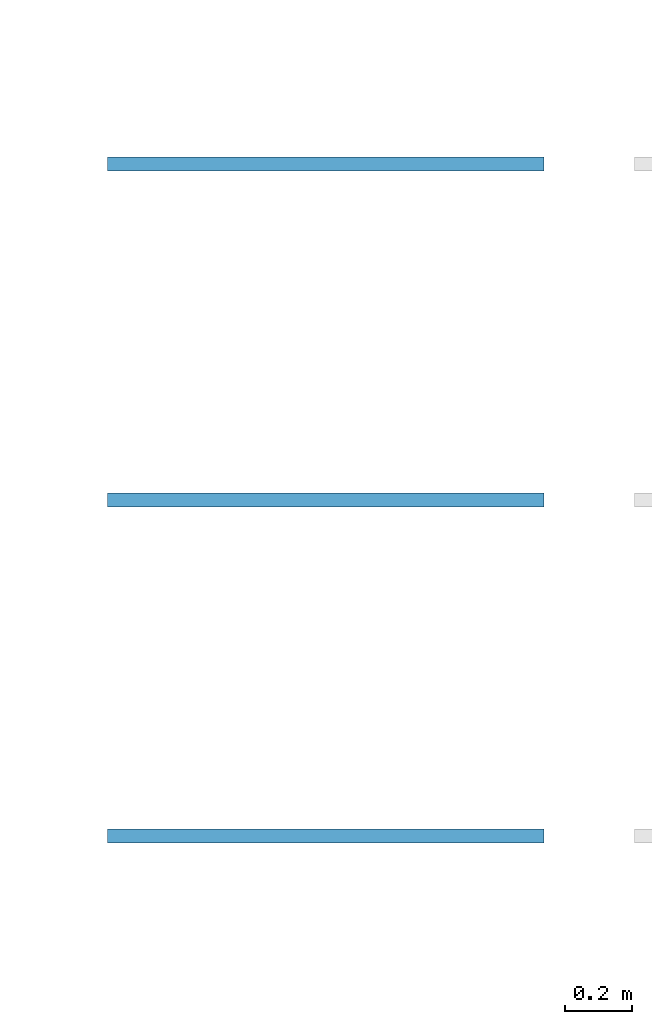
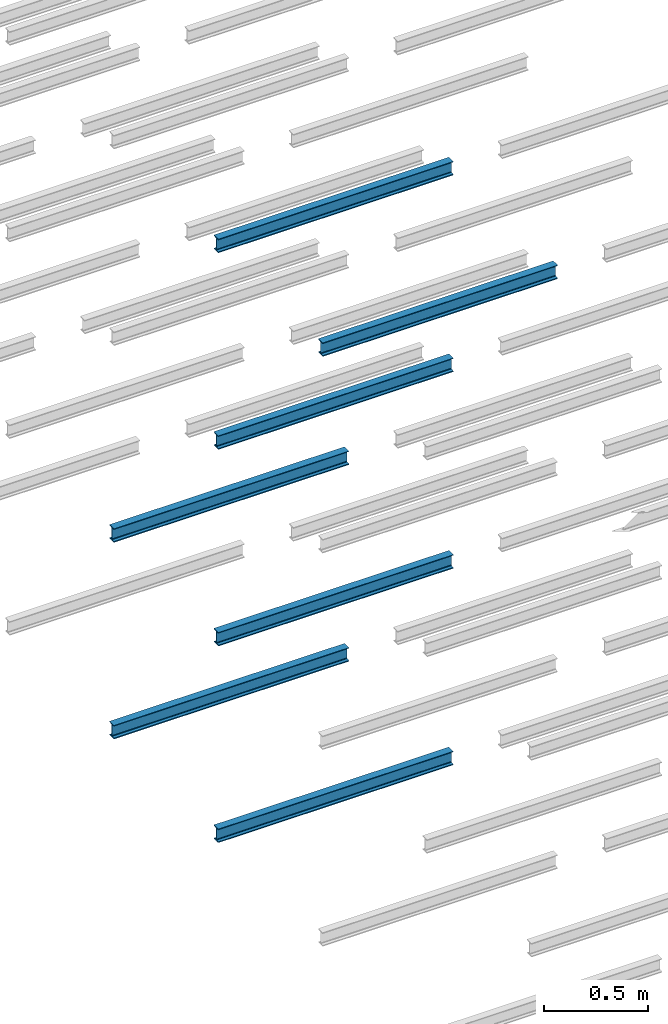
# One storey, part 37 of 290: 7 beams.
"""IFC2X3 building model written with IfcOpenShell, lengths in metres."""

from ifc_helpers import new_model, entity, si_unit, converted_unit, derived_unit, direction, frame, frame_2d, origin, place, context, subcontext, project, spatial, polyline, circle_curve, parameter, trimmed, segment, composite_curve, outline, extrude, material, type_object, element, save


model = new_model("IFC2X3")

# Units and contexts
model_context = context("Model", 3, precision=1e-05, world=origin(), true_north=direction((6.12303176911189e-17, 1.0)))
body_context = subcontext(model_context, "Body", "Model", "MODEL_VIEW")
ifc_project = project(units=[si_unit("LENGTHUNIT", "METRE"), si_unit("AREAUNIT", "SQUARE_METRE"), si_unit("VOLUMEUNIT", "CUBIC_METRE"), converted_unit("PLANEANGLEUNIT", "DEGREE", entity("IfcRatioMeasure", 0.0174532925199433), si_unit("PLANEANGLEUNIT", "RADIAN"), dimensions=[0, 0, 0, 0, 0, 0, 0]), si_unit("MASSUNIT", "GRAM", prefix="KILO"), derived_unit("MASSDENSITYUNIT", [(si_unit("MASSUNIT", "GRAM", prefix="KILO"), 1), (si_unit("LENGTHUNIT", "METRE"), -3)]), derived_unit("MOMENTOFINERTIAUNIT", [(si_unit("LENGTHUNIT", "METRE"), 4)]), si_unit("TIMEUNIT", "SECOND"), si_unit("FREQUENCYUNIT", "HERTZ"), si_unit("THERMODYNAMICTEMPERATUREUNIT", "DEGREE_CELSIUS"), derived_unit("THERMALTRANSMITTANCEUNIT", [(si_unit("MASSUNIT", "GRAM", prefix="KILO"), 1), (si_unit("THERMODYNAMICTEMPERATUREUNIT", "KELVIN"), -1), (si_unit("TIMEUNIT", "SECOND"), -3)]), derived_unit("VOLUMETRICFLOWRATEUNIT", [(si_unit("LENGTHUNIT", "METRE"), 3), (si_unit("TIMEUNIT", "SECOND"), -1)]), si_unit("ELECTRICCURRENTUNIT", "AMPERE"), si_unit("ELECTRICVOLTAGEUNIT", "VOLT"), si_unit("POWERUNIT", "WATT"), si_unit("FORCEUNIT", "NEWTON", prefix="KILO"), si_unit("ILLUMINANCEUNIT", "LUX"), si_unit("LUMINOUSFLUXUNIT", "LUMEN"), si_unit("LUMINOUSINTENSITYUNIT", "CANDELA"), derived_unit("USERDEFINED", [(si_unit("MASSUNIT", "GRAM", prefix="KILO"), -1), (si_unit("LENGTHUNIT", "METRE"), -2), (si_unit("TIMEUNIT", "SECOND"), 3), (si_unit("LUMINOUSFLUXUNIT", "LUMEN"), 1)]), derived_unit("LINEARVELOCITYUNIT", [(si_unit("LENGTHUNIT", "METRE"), 1), (si_unit("TIMEUNIT", "SECOND"), -1)]), si_unit("PRESSUREUNIT", "PASCAL"), derived_unit("USERDEFINED", [(si_unit("LENGTHUNIT", "METRE"), -2), (si_unit("MASSUNIT", "GRAM", prefix="KILO"), 1), (si_unit("TIMEUNIT", "SECOND"), -2)]), derived_unit("LINEARFORCEUNIT", [(si_unit("MASSUNIT", "GRAM", prefix="KILO"), 1), (si_unit("LENGTHUNIT", "METRE"), 1), (si_unit("TIMEUNIT", "SECOND"), -2), (si_unit("LENGTHUNIT", "METRE"), -1)]), derived_unit("PLANARFORCEUNIT", [(si_unit("MASSUNIT", "GRAM", prefix="KILO"), 1), (si_unit("LENGTHUNIT", "METRE"), 1), (si_unit("TIMEUNIT", "SECOND"), -2), (si_unit("LENGTHUNIT", "METRE"), -2)])], contexts=[model_context])

# Site, building, storey
site_placement = place(None, origin())
site = spatial("IfcSite", under=ifc_project, at=site_placement, Name="Default", CompositionType="ELEMENT")
building_placement = place(site_placement, origin())
building = spatial("IfcBuilding", under=site, at=building_placement, CompositionType="ELEMENT")
storey_placement = place(building_placement, frame((0.0, 0.0, 4.0)))
storey = spatial("IfcBuildingStorey", under=building, at=storey_placement, Name="01_OG", CompositionType="ELEMENT", Elevation=4.0)

# Beams
ifc_material = material(Name="Metall - Baustahl S235")
beam_type = type_object("IfcBeamType", Name="IPN Träger:IPN 80", PredefinedType="NOTDEFINED")
beam_1_placement = place(storey_placement, frame((-170.780111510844, 31.036588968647, -1.73), z_axis=(0.0, 0.0, 1.0), x_axis=(-1.0, 0.0, 0.0)))
element("IfcBeam", 1, at=beam_1_placement, inside=storey, type_object=beam_type, material=ifc_material, Name="IPN Träger:IPN 80", ObjectType="IPN Träger:IPN 80", context=body_context, shape_type="SweptSolid", body=[
    extrude(outline(composite_curve([segment(polyline([(0.0375704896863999, -0.0209999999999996), (0.0399999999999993, -0.0209999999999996)]), True, "CONTINUOUS"), segment(polyline([(0.0399999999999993, -0.0209999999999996), (0.0399999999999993, 0.0209999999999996)]), True, "CONTINUOUS"), segment(polyline([(0.0399999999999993, 0.0209999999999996), (0.0375704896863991, 0.0209999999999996)]), True, "CONTINUOUS"), segment(trimmed(circle_curve(frame_2d((0.0375704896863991, 0.0187000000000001), x_axis=(0.0, 1.0)), 0.00230000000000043), [parameter(0.0)], [parameter(82.0299999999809)], True, "PARAMETER"), True, "CONTINUOUS"), segment(polyline([(0.0352927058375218, 0.0190189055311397), (0.0333732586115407, 0.00530924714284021)]), True, "CONTINUOUS"), segment(trimmed(circle_curve(frame_2d((0.0295109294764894, 0.00584999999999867), x_axis=(0.990340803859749, -0.138654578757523)), 0.00389999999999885), [parameter(277.969999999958)], [parameter(0.0)], True, "PARAMETER"), False, "CONTINUOUS"), segment(polyline([(0.0295109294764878, 0.00194999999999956), (-0.0295109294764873, 0.00194999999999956)]), True, "CONTINUOUS"), segment(trimmed(circle_curve(frame_2d((-0.0295109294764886, 0.00584999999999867), x_axis=(0.0, -1.0)), 0.00389999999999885), [parameter(277.969999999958)], [parameter(0.0)], True, "PARAMETER"), False, "CONTINUOUS"), segment(polyline([(-0.0333732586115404, 0.00530924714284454), (-0.0352927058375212, 0.019018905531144)]), True, "CONTINUOUS"), segment(trimmed(circle_curve(frame_2d((-0.0375704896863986, 0.0187000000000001), x_axis=(0.990340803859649, 0.138654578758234)), 0.00230000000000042), [parameter(0.0)], [parameter(82.0299999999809)], True, "PARAMETER"), True, "CONTINUOUS"), segment(polyline([(-0.0375704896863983, 0.0209999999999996), (-0.0400000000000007, 0.0209999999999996)]), True, "CONTINUOUS"), segment(polyline([(-0.0400000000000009, 0.0209999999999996), (-0.0400000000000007, -0.0209999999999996)]), True, "CONTINUOUS"), segment(polyline([(-0.0400000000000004, -0.0209999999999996), (-0.0375704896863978, -0.0209999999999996)]), True, "CONTINUOUS"), segment(trimmed(circle_curve(frame_2d((-0.0375704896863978, -0.0187000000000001), x_axis=(0.0, -1.0)), 0.00230000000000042), [parameter(0.0)], [parameter(82.0299999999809)], True, "PARAMETER"), True, "CONTINUOUS"), segment(polyline([(-0.0352927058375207, -0.0190189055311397), (-0.0333732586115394, -0.00530924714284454)]), True, "CONTINUOUS"), segment(trimmed(circle_curve(frame_2d((-0.0295109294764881, -0.00584999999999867), x_axis=(-0.990340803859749, 0.138654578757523)), 0.00389999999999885), [parameter(277.969999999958)], [parameter(0.0)], True, "PARAMETER"), False, "CONTINUOUS"), segment(polyline([(-0.0295109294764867, -0.00194999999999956), (0.0295109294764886, -0.00194999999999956)]), True, "CONTINUOUS"), segment(trimmed(circle_curve(frame_2d((0.0295109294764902, -0.00584999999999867), x_axis=(0.0, 1.0)), 0.0038999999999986), [parameter(277.969999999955)], [parameter(0.0)], True, "PARAMETER"), False, "CONTINUOUS"), segment(polyline([(0.0333732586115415, -0.00530924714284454), (0.0352927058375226, -0.019018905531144)]), True, "CONTINUOUS"), segment(trimmed(circle_curve(frame_2d((0.0375704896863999, -0.0187000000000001), x_axis=(-0.990340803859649, -0.138654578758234)), 0.00230000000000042), [parameter(0.0)], [parameter(82.0299999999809)], True, "PARAMETER"), True, "CONTINUOUS")], self_intersect=False)), frame((0.00010000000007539, 0.0209999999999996, -0.0400000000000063), z_axis=(1.0, 0.0, 0.0), x_axis=(0.0, 0.0, -1.0)), (0.0, 0.0, 1.0), 1.29990000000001),
])
beam_2_placement = place(storey_placement, frame((-170.780111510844, 31.036588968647, -0.579999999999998), z_axis=(0.0, 0.0, 1.0), x_axis=(-1.0, 0.0, 0.0)))
element("IfcBeam", 2, at=beam_2_placement, inside=storey, type_object=beam_type, material=ifc_material, Name="IPN Träger:IPN 80", ObjectType="IPN Träger:IPN 80", context=body_context, shape_type="SweptSolid", body=[
    extrude(outline(composite_curve([segment(polyline([(0.0375704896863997, -0.0209999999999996), (0.039999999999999, -0.0209999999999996)]), True, "CONTINUOUS"), segment(polyline([(0.039999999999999, -0.0209999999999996), (0.039999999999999, 0.0209999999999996)]), True, "CONTINUOUS"), segment(polyline([(0.039999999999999, 0.0209999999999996), (0.0375704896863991, 0.0209999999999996)]), True, "CONTINUOUS"), segment(trimmed(circle_curve(frame_2d((0.0375704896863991, 0.0187000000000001), x_axis=(0.0, 1.0)), 0.00230000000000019), [parameter(0.0)], [parameter(82.02999999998)], True, "PARAMETER"), True, "CONTINUOUS"), segment(polyline([(0.0352927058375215, 0.0190189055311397), (0.0333732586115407, 0.00530924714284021)]), True, "CONTINUOUS"), segment(trimmed(circle_curve(frame_2d((0.0295109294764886, 0.00584999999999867), x_axis=(0.990340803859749, -0.138654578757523)), 0.00389999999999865), [parameter(277.969999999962)], [parameter(0.0)], True, "PARAMETER"), False, "CONTINUOUS"), segment(polyline([(0.0295109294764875, 0.00194999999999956), (-0.0295109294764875, 0.00194999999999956)]), True, "CONTINUOUS"), segment(trimmed(circle_curve(frame_2d((-0.0295109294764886, 0.00584999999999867), x_axis=(0.0, -1.0)), 0.00389999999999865), [parameter(277.969999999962)], [parameter(0.0)], True, "PARAMETER"), False, "CONTINUOUS"), segment(polyline([(-0.0333732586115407, 0.00530924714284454), (-0.0352927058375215, 0.019018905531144)]), True, "CONTINUOUS"), segment(trimmed(circle_curve(frame_2d((-0.0375704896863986, 0.0187000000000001), x_axis=(0.990340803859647, 0.138654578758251)), 0.00230000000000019), [parameter(0.0)], [parameter(82.02999999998)], True, "PARAMETER"), True, "CONTINUOUS"), segment(polyline([(-0.0375704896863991, 0.0209999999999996), (-0.0400000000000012, 0.0209999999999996)]), True, "CONTINUOUS"), segment(polyline([(-0.0400000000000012, 0.0209999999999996), (-0.0400000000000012, -0.0209999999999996)]), True, "CONTINUOUS"), segment(polyline([(-0.0400000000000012, -0.0209999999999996), (-0.037570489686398, -0.0209999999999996)]), True, "CONTINUOUS"), segment(trimmed(circle_curve(frame_2d((-0.037570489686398, -0.0187000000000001), x_axis=(0.0, -1.0)), 0.00230000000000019), [parameter(0.0)], [parameter(82.02999999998)], True, "PARAMETER"), True, "CONTINUOUS"), segment(polyline([(-0.035292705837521, -0.0190189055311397), (-0.0333732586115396, -0.00530924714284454)]), True, "CONTINUOUS"), segment(trimmed(circle_curve(frame_2d((-0.0295109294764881, -0.00584999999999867), x_axis=(-0.990340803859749, 0.138654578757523)), 0.00389999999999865), [parameter(277.969999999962)], [parameter(0.0)], True, "PARAMETER"), False, "CONTINUOUS"), segment(polyline([(-0.029510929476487, -0.00194999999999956), (0.0295109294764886, -0.00194999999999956)]), True, "CONTINUOUS"), segment(trimmed(circle_curve(frame_2d((0.0295109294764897, -0.00584999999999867), x_axis=(0.0, 1.0)), 0.00389999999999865), [parameter(277.969999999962)], [parameter(0.0)], True, "PARAMETER"), False, "CONTINUOUS"), segment(polyline([(0.0333732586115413, -0.00530924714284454), (0.0352927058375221, -0.019018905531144)]), True, "CONTINUOUS"), segment(trimmed(circle_curve(frame_2d((0.0375704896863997, -0.0187000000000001), x_axis=(-0.990340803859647, -0.138654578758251)), 0.00230000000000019), [parameter(0.0)], [parameter(82.02999999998)], True, "PARAMETER"), True, "CONTINUOUS")], self_intersect=False)), frame((0.000100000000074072, 0.0209999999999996, -0.0400000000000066), z_axis=(1.0, 0.0, 0.0), x_axis=(0.0, 0.0, -1.0)), (0.0, 0.0, 1.0), 1.29990000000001),
])
beam_3_placement = place(storey_placement, frame((-170.780111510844, 30.036588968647, -1.73), z_axis=(0.0, 0.0, 1.0), x_axis=(-1.0, 0.0, 0.0)))
element("IfcBeam", 3, at=beam_3_placement, inside=storey, type_object=beam_type, material=ifc_material, Name="IPN Träger:IPN 80", ObjectType="IPN Träger:IPN 80", context=body_context, shape_type="SweptSolid", body=[
    extrude(outline(composite_curve([segment(polyline([(0.0375704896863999, -0.0209999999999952), (0.0399999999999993, -0.0209999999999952)]), True, "CONTINUOUS"), segment(polyline([(0.0399999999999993, -0.0209999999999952), (0.0399999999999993, 0.0210000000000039)]), True, "CONTINUOUS"), segment(polyline([(0.0399999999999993, 0.0210000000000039), (0.0375704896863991, 0.0210000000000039)]), True, "CONTINUOUS"), segment(trimmed(circle_curve(frame_2d((0.0375704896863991, 0.0187000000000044), x_axis=(0.0, 1.0)), 0.00230000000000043), [parameter(0.0)], [parameter(82.0299999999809)], True, "PARAMETER"), True, "CONTINUOUS"), segment(polyline([(0.0352927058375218, 0.019018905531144), (0.0333732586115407, 0.00530924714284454)]), True, "CONTINUOUS"), segment(trimmed(circle_curve(frame_2d((0.0295109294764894, 0.005850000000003), x_axis=(0.990340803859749, -0.138654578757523)), 0.00389999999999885), [parameter(277.969999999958)], [parameter(0.0)], True, "PARAMETER"), False, "CONTINUOUS"), segment(polyline([(0.0295109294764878, 0.00195000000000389), (-0.0295109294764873, 0.00195000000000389)]), True, "CONTINUOUS"), segment(trimmed(circle_curve(frame_2d((-0.0295109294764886, 0.005850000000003), x_axis=(0.0, -1.0)), 0.00389999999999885), [parameter(277.969999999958)], [parameter(0.0)], True, "PARAMETER"), False, "CONTINUOUS"), segment(polyline([(-0.0333732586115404, 0.00530924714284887), (-0.0352927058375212, 0.0190189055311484)]), True, "CONTINUOUS"), segment(trimmed(circle_curve(frame_2d((-0.0375704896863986, 0.0187000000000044), x_axis=(0.990340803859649, 0.138654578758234)), 0.00230000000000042), [parameter(0.0)], [parameter(82.0299999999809)], True, "PARAMETER"), True, "CONTINUOUS"), segment(polyline([(-0.0375704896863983, 0.0210000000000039), (-0.0400000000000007, 0.0210000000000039)]), True, "CONTINUOUS"), segment(polyline([(-0.0400000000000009, 0.0210000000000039), (-0.0400000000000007, -0.0209999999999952)]), True, "CONTINUOUS"), segment(polyline([(-0.0400000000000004, -0.0209999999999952), (-0.0375704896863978, -0.0209999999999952)]), True, "CONTINUOUS"), segment(trimmed(circle_curve(frame_2d((-0.0375704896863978, -0.0186999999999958), x_axis=(0.0, -1.0)), 0.00230000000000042), [parameter(0.0)], [parameter(82.0299999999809)], True, "PARAMETER"), True, "CONTINUOUS"), segment(polyline([(-0.0352927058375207, -0.0190189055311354), (-0.0333732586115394, -0.00530924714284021)]), True, "CONTINUOUS"), segment(trimmed(circle_curve(frame_2d((-0.0295109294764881, -0.00584999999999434), x_axis=(-0.990340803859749, 0.138654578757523)), 0.00389999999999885), [parameter(277.969999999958)], [parameter(0.0)], True, "PARAMETER"), False, "CONTINUOUS"), segment(polyline([(-0.0295109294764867, -0.00194999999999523), (0.0295109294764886, -0.00194999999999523)]), True, "CONTINUOUS"), segment(trimmed(circle_curve(frame_2d((0.0295109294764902, -0.00584999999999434), x_axis=(0.0, 1.0)), 0.0038999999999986), [parameter(277.969999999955)], [parameter(0.0)], True, "PARAMETER"), False, "CONTINUOUS"), segment(polyline([(0.0333732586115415, -0.00530924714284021), (0.0352927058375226, -0.0190189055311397)]), True, "CONTINUOUS"), segment(trimmed(circle_curve(frame_2d((0.0375704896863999, -0.0186999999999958), x_axis=(-0.990340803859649, -0.138654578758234)), 0.00230000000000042), [parameter(0.0)], [parameter(82.0299999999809)], True, "PARAMETER"), True, "CONTINUOUS")], self_intersect=False)), frame((0.00010000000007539, 0.0209999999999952, -0.0400000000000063), z_axis=(1.0, 0.0, 0.0), x_axis=(0.0, 0.0, -1.0)), (0.0, 0.0, 1.0), 1.29990000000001),
])
beam_4_placement = place(storey_placement, frame((-170.780111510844, 30.036588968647, -0.579999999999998), z_axis=(0.0, 0.0, 1.0), x_axis=(-1.0, 0.0, 0.0)))
element("IfcBeam", 4, at=beam_4_placement, inside=storey, type_object=beam_type, material=ifc_material, Name="IPN Träger:IPN 80", ObjectType="IPN Träger:IPN 80", context=body_context, shape_type="SweptSolid", body=[
    extrude(outline(composite_curve([segment(polyline([(0.0375704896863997, -0.0209999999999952), (0.039999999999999, -0.0209999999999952)]), True, "CONTINUOUS"), segment(polyline([(0.039999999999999, -0.0209999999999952), (0.039999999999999, 0.0210000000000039)]), True, "CONTINUOUS"), segment(polyline([(0.039999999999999, 0.0210000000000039), (0.0375704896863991, 0.0210000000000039)]), True, "CONTINUOUS"), segment(trimmed(circle_curve(frame_2d((0.0375704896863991, 0.0187000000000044), x_axis=(0.0, 1.0)), 0.00230000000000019), [parameter(0.0)], [parameter(82.02999999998)], True, "PARAMETER"), True, "CONTINUOUS"), segment(polyline([(0.0352927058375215, 0.019018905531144), (0.0333732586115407, 0.00530924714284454)]), True, "CONTINUOUS"), segment(trimmed(circle_curve(frame_2d((0.0295109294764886, 0.005850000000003), x_axis=(0.990340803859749, -0.138654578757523)), 0.00389999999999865), [parameter(277.969999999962)], [parameter(0.0)], True, "PARAMETER"), False, "CONTINUOUS"), segment(polyline([(0.0295109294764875, 0.00195000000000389), (-0.0295109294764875, 0.00195000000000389)]), True, "CONTINUOUS"), segment(trimmed(circle_curve(frame_2d((-0.0295109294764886, 0.005850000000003), x_axis=(0.0, -1.0)), 0.00389999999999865), [parameter(277.969999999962)], [parameter(0.0)], True, "PARAMETER"), False, "CONTINUOUS"), segment(polyline([(-0.0333732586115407, 0.00530924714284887), (-0.0352927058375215, 0.0190189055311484)]), True, "CONTINUOUS"), segment(trimmed(circle_curve(frame_2d((-0.0375704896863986, 0.0187000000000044), x_axis=(0.990340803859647, 0.138654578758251)), 0.00230000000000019), [parameter(0.0)], [parameter(82.02999999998)], True, "PARAMETER"), True, "CONTINUOUS"), segment(polyline([(-0.0375704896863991, 0.0210000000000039), (-0.0400000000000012, 0.0210000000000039)]), True, "CONTINUOUS"), segment(polyline([(-0.0400000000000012, 0.0210000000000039), (-0.0400000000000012, -0.0209999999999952)]), True, "CONTINUOUS"), segment(polyline([(-0.0400000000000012, -0.0209999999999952), (-0.037570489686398, -0.0209999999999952)]), True, "CONTINUOUS"), segment(trimmed(circle_curve(frame_2d((-0.037570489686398, -0.0186999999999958), x_axis=(0.0, -1.0)), 0.00230000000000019), [parameter(0.0)], [parameter(82.02999999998)], True, "PARAMETER"), True, "CONTINUOUS"), segment(polyline([(-0.035292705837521, -0.0190189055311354), (-0.0333732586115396, -0.00530924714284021)]), True, "CONTINUOUS"), segment(trimmed(circle_curve(frame_2d((-0.0295109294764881, -0.00584999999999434), x_axis=(-0.990340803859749, 0.138654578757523)), 0.00389999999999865), [parameter(277.969999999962)], [parameter(0.0)], True, "PARAMETER"), False, "CONTINUOUS"), segment(polyline([(-0.029510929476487, -0.00194999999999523), (0.0295109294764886, -0.00194999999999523)]), True, "CONTINUOUS"), segment(trimmed(circle_curve(frame_2d((0.0295109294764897, -0.00584999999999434), x_axis=(0.0, 1.0)), 0.00389999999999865), [parameter(277.969999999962)], [parameter(0.0)], True, "PARAMETER"), False, "CONTINUOUS"), segment(polyline([(0.0333732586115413, -0.00530924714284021), (0.0352927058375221, -0.0190189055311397)]), True, "CONTINUOUS"), segment(trimmed(circle_curve(frame_2d((0.0375704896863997, -0.0186999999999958), x_axis=(-0.990340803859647, -0.138654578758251)), 0.00230000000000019), [parameter(0.0)], [parameter(82.02999999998)], True, "PARAMETER"), True, "CONTINUOUS")], self_intersect=False)), frame((0.000100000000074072, 0.0209999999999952, -0.0400000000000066), z_axis=(1.0, 0.0, 0.0), x_axis=(0.0, 0.0, -1.0)), (0.0, 0.0, 1.0), 1.29990000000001),
])
beam_5_placement = place(storey_placement, frame((-170.780111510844, 30.036588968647, 0.570000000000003), z_axis=(0.0, 0.0, 1.0), x_axis=(-1.0, 0.0, 0.0)))
element("IfcBeam", 5, at=beam_5_placement, inside=storey, type_object=beam_type, material=ifc_material, Name="IPN Träger:IPN 80", ObjectType="IPN Träger:IPN 80", context=body_context, shape_type="SweptSolid", body=[
    extrude(outline(composite_curve([segment(polyline([(0.0375704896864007, -0.0209999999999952), (0.0400000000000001, -0.0209999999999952)]), True, "CONTINUOUS"), segment(polyline([(0.0400000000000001, -0.0209999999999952), (0.0400000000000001, 0.0210000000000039)]), True, "CONTINUOUS"), segment(polyline([(0.0400000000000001, 0.0210000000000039), (0.0375704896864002, 0.0210000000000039)]), True, "CONTINUOUS"), segment(trimmed(circle_curve(frame_2d((0.0375704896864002, 0.0187000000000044), x_axis=(0.0, 1.0)), 0.00230000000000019), [parameter(0.0)], [parameter(82.02999999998)], True, "PARAMETER"), True, "CONTINUOUS"), segment(polyline([(0.0352927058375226, 0.019018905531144), (0.0333732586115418, 0.00530924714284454)]), True, "CONTINUOUS"), segment(trimmed(circle_curve(frame_2d((0.0295109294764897, 0.005850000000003), x_axis=(0.990340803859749, -0.138654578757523)), 0.00389999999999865), [parameter(277.969999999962)], [parameter(0.0)], True, "PARAMETER"), False, "CONTINUOUS"), segment(polyline([(0.0295109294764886, 0.00195000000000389), (-0.0295109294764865, 0.00195000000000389)]), True, "CONTINUOUS"), segment(trimmed(circle_curve(frame_2d((-0.0295109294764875, 0.005850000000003), x_axis=(0.0, -1.0)), 0.00389999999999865), [parameter(277.969999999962)], [parameter(0.0)], True, "PARAMETER"), False, "CONTINUOUS"), segment(polyline([(-0.0333732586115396, 0.00530924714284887), (-0.0352927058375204, 0.0190189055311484)]), True, "CONTINUOUS"), segment(trimmed(circle_curve(frame_2d((-0.0375704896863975, 0.0187000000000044), x_axis=(0.990340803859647, 0.138654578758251)), 0.00230000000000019), [parameter(0.0)], [parameter(82.02999999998)], True, "PARAMETER"), True, "CONTINUOUS"), segment(polyline([(-0.037570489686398, 0.0210000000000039), (-0.0400000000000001, 0.0210000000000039)]), True, "CONTINUOUS"), segment(polyline([(-0.0400000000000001, 0.0210000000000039), (-0.0400000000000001, -0.0209999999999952)]), True, "CONTINUOUS"), segment(polyline([(-0.0400000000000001, -0.0209999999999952), (-0.0375704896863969, -0.0209999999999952)]), True, "CONTINUOUS"), segment(trimmed(circle_curve(frame_2d((-0.0375704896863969, -0.0186999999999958), x_axis=(0.0, -1.0)), 0.00230000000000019), [parameter(0.0)], [parameter(82.02999999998)], True, "PARAMETER"), True, "CONTINUOUS"), segment(polyline([(-0.0352927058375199, -0.0190189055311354), (-0.0333732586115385, -0.00530924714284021)]), True, "CONTINUOUS"), segment(trimmed(circle_curve(frame_2d((-0.029510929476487, -0.00584999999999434), x_axis=(-0.990340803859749, 0.138654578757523)), 0.00389999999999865), [parameter(277.969999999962)], [parameter(0.0)], True, "PARAMETER"), False, "CONTINUOUS"), segment(polyline([(-0.0295109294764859, -0.00194999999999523), (0.0295109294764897, -0.00194999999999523)]), True, "CONTINUOUS"), segment(trimmed(circle_curve(frame_2d((0.0295109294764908, -0.00584999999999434), x_axis=(0.0, 1.0)), 0.00389999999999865), [parameter(277.969999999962)], [parameter(0.0)], True, "PARAMETER"), False, "CONTINUOUS"), segment(polyline([(0.0333732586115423, -0.00530924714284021), (0.0352927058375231, -0.0190189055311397)]), True, "CONTINUOUS"), segment(trimmed(circle_curve(frame_2d((0.0375704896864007, -0.0186999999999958), x_axis=(-0.990340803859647, -0.138654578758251)), 0.00230000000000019), [parameter(0.0)], [parameter(82.02999999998)], True, "PARAMETER"), True, "CONTINUOUS")], self_intersect=False)), frame((0.000100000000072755, 0.0209999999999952, -0.0400000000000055), z_axis=(1.0, 0.0, 0.0), x_axis=(0.0, 0.0, -1.0)), (0.0, 0.0, 1.0), 1.29990000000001),
])
beam_6_placement = place(storey_placement, frame((-170.780111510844, 30.036588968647, 1.72), z_axis=(0.0, 0.0, 1.0), x_axis=(-1.0, 0.0, 0.0)))
element("IfcBeam", 6, at=beam_6_placement, inside=storey, type_object=beam_type, material=ifc_material, Name="IPN Träger:IPN 80", ObjectType="IPN Träger:IPN 80", context=body_context, shape_type="SweptSolid", body=[
    extrude(outline(composite_curve([segment(polyline([(0.0375704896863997, -0.0209999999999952), (0.0399999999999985, -0.0209999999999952)]), True, "CONTINUOUS"), segment(polyline([(0.0399999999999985, -0.0209999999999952), (0.0399999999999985, 0.0210000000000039)]), True, "CONTINUOUS"), segment(polyline([(0.0399999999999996, 0.0210000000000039), (0.0375704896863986, 0.0210000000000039)]), True, "CONTINUOUS"), segment(trimmed(circle_curve(frame_2d((0.0375704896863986, 0.0187000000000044), x_axis=(0.0, 1.0)), 0.00230000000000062), [parameter(0.0)], [parameter(82.0299999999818)], True, "PARAMETER"), True, "CONTINUOUS"), segment(polyline([(0.0352927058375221, 0.019018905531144), (0.0333732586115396, 0.00530924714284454)]), True, "CONTINUOUS"), segment(trimmed(circle_curve(frame_2d((0.0295109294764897, 0.005850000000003), x_axis=(0.990340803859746, -0.138654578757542)), 0.00389999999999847), [parameter(277.969999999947)], [parameter(0.0)], True, "PARAMETER"), False, "CONTINUOUS"), segment(polyline([(0.0295109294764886, 0.00195000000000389), (-0.0295109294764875, 0.00195000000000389)]), True, "CONTINUOUS"), segment(trimmed(circle_curve(frame_2d((-0.0295109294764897, 0.005850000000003), x_axis=(0.0, -1.0)), 0.00389999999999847), [parameter(277.969999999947)], [parameter(0.0)], True, "PARAMETER"), False, "CONTINUOUS"), segment(polyline([(-0.0333732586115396, 0.00530924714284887), (-0.0352927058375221, 0.0190189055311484)]), True, "CONTINUOUS"), segment(trimmed(circle_curve(frame_2d((-0.0375704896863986, 0.0187000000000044), x_axis=(0.990340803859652, 0.138654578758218)), 0.00230000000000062), [parameter(0.0)], [parameter(82.0299999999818)], True, "PARAMETER"), True, "CONTINUOUS"), segment(polyline([(-0.0375704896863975, 0.0210000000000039), (-0.0400000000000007, 0.0210000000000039)]), True, "CONTINUOUS"), segment(polyline([(-0.0400000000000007, 0.0210000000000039), (-0.0400000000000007, -0.0209999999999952)]), True, "CONTINUOUS"), segment(polyline([(-0.0400000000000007, -0.0209999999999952), (-0.0375704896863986, -0.0209999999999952)]), True, "CONTINUOUS"), segment(trimmed(circle_curve(frame_2d((-0.0375704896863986, -0.0186999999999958), x_axis=(0.0, -1.0)), 0.00230000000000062), [parameter(0.0)], [parameter(82.0299999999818)], True, "PARAMETER"), True, "CONTINUOUS"), segment(polyline([(-0.035292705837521, -0.0190189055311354), (-0.0333732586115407, -0.00530924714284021)]), True, "CONTINUOUS"), segment(trimmed(circle_curve(frame_2d((-0.0295109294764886, -0.00584999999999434), x_axis=(-0.990340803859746, 0.138654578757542)), 0.00389999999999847), [parameter(277.969999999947)], [parameter(0.0)], True, "PARAMETER"), False, "CONTINUOUS"), segment(polyline([(-0.0295109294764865, -0.00194999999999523), (0.0295109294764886, -0.00194999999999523)]), True, "CONTINUOUS"), segment(trimmed(circle_curve(frame_2d((0.0295109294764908, -0.00584999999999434), x_axis=(0.0, 1.0)), 0.00389999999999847), [parameter(277.969999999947)], [parameter(0.0)], True, "PARAMETER"), False, "CONTINUOUS"), segment(polyline([(0.0333732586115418, -0.00530924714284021), (0.0352927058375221, -0.0190189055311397)]), True, "CONTINUOUS"), segment(trimmed(circle_curve(frame_2d((0.0375704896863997, -0.0186999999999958), x_axis=(-0.990340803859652, -0.138654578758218)), 0.00230000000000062), [parameter(0.0)], [parameter(82.0299999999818)], True, "PARAMETER"), True, "CONTINUOUS")], self_intersect=False)), frame((0.000100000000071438, 0.0209999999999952, -0.040000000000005), z_axis=(1.0, 0.0, 0.0), x_axis=(0.0, 0.0, -1.0)), (0.0, 0.0, 1.0), 1.29990000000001),
])
beam_7_placement = place(storey_placement, frame((-170.780111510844, 29.036588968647, 1.72), z_axis=(0.0, 0.0, 1.0), x_axis=(-1.0, 0.0, 0.0)))
element("IfcBeam", 7, at=beam_7_placement, inside=storey, type_object=beam_type, material=ifc_material, Name="IPN Träger:IPN 80", ObjectType="IPN Träger:IPN 80", context=body_context, shape_type="SweptSolid", body=[
    extrude(outline(composite_curve([segment(polyline([(0.0375704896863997, -0.0209999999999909), (0.0399999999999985, -0.0209999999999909)]), True, "CONTINUOUS"), segment(polyline([(0.0399999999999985, -0.0209999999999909), (0.0399999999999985, 0.0210000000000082)]), True, "CONTINUOUS"), segment(polyline([(0.0399999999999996, 0.0210000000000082), (0.0375704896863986, 0.0210000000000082)]), True, "CONTINUOUS"), segment(trimmed(circle_curve(frame_2d((0.0375704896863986, 0.0187000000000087), x_axis=(0.0, 1.0)), 0.00230000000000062), [parameter(0.0)], [parameter(82.0299999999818)], True, "PARAMETER"), True, "CONTINUOUS"), segment(polyline([(0.0352927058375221, 0.0190189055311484), (0.0333732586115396, 0.00530924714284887)]), True, "CONTINUOUS"), segment(trimmed(circle_curve(frame_2d((0.0295109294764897, 0.00585000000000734), x_axis=(0.990340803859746, -0.138654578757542)), 0.00389999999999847), [parameter(277.969999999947)], [parameter(0.0)], True, "PARAMETER"), False, "CONTINUOUS"), segment(polyline([(0.0295109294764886, 0.00195000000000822), (-0.0295109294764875, 0.00195000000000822)]), True, "CONTINUOUS"), segment(trimmed(circle_curve(frame_2d((-0.0295109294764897, 0.00585000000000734), x_axis=(0.0, -1.0)), 0.00389999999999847), [parameter(277.969999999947)], [parameter(0.0)], True, "PARAMETER"), False, "CONTINUOUS"), segment(polyline([(-0.0333732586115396, 0.0053092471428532), (-0.0352927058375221, 0.0190189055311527)]), True, "CONTINUOUS"), segment(trimmed(circle_curve(frame_2d((-0.0375704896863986, 0.0187000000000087), x_axis=(0.990340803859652, 0.138654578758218)), 0.00230000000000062), [parameter(0.0)], [parameter(82.0299999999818)], True, "PARAMETER"), True, "CONTINUOUS"), segment(polyline([(-0.0375704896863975, 0.0210000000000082), (-0.0400000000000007, 0.0210000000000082)]), True, "CONTINUOUS"), segment(polyline([(-0.0400000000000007, 0.0210000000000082), (-0.0400000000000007, -0.0209999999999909)]), True, "CONTINUOUS"), segment(polyline([(-0.0400000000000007, -0.0209999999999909), (-0.0375704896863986, -0.0209999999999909)]), True, "CONTINUOUS"), segment(trimmed(circle_curve(frame_2d((-0.0375704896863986, -0.0186999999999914), x_axis=(0.0, -1.0)), 0.00230000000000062), [parameter(0.0)], [parameter(82.0299999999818)], True, "PARAMETER"), True, "CONTINUOUS"), segment(polyline([(-0.035292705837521, -0.019018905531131), (-0.0333732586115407, -0.00530924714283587)]), True, "CONTINUOUS"), segment(trimmed(circle_curve(frame_2d((-0.0295109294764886, -0.00584999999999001), x_axis=(-0.990340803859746, 0.138654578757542)), 0.00389999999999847), [parameter(277.969999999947)], [parameter(0.0)], True, "PARAMETER"), False, "CONTINUOUS"), segment(polyline([(-0.0295109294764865, -0.00194999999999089), (0.0295109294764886, -0.00194999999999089)]), True, "CONTINUOUS"), segment(trimmed(circle_curve(frame_2d((0.0295109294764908, -0.00584999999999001), x_axis=(0.0, 1.0)), 0.00389999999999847), [parameter(277.969999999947)], [parameter(0.0)], True, "PARAMETER"), False, "CONTINUOUS"), segment(polyline([(0.0333732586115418, -0.00530924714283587), (0.0352927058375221, -0.0190189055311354)]), True, "CONTINUOUS"), segment(trimmed(circle_curve(frame_2d((0.0375704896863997, -0.0186999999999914), x_axis=(-0.990340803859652, -0.138654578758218)), 0.00230000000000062), [parameter(0.0)], [parameter(82.0299999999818)], True, "PARAMETER"), True, "CONTINUOUS")], self_intersect=False)), frame((0.000100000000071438, 0.0209999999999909, -0.040000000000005), z_axis=(1.0, 0.0, 0.0), x_axis=(0.0, 0.0, -1.0)), (0.0, 0.0, 1.0), 1.29990000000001),
])

save(model, "model.ifc")
